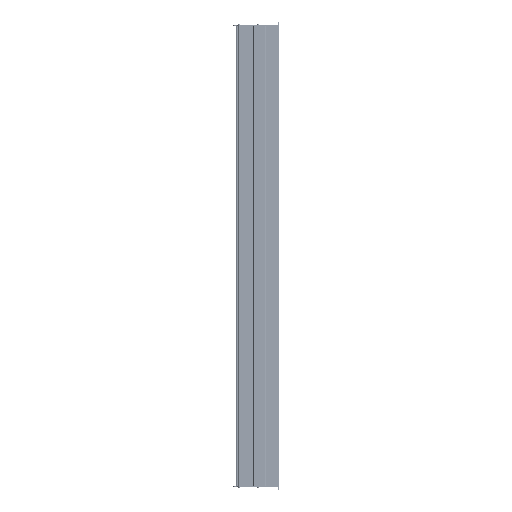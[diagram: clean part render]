
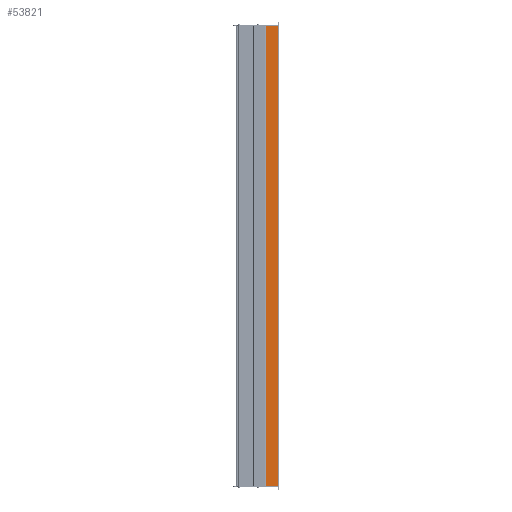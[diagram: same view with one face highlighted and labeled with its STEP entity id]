
A CAD part, left-side view. The second image highlights one B-rep face of the part: STEP entity #53821.
In plain terms, the highlighted planar face has unit normal (-1, 0, 0).
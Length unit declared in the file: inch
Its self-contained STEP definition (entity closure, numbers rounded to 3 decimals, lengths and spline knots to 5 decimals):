
#7675 = CARTESIAN_POINT ( 'NONE',  ( -1.25984, -3.67323, -48.0625 ) ) ;
#12325 = ORIENTED_EDGE ( 'NONE', *, *, #13777, .F. ) ;
#12987 = DIRECTION ( 'NONE',  ( 0., 0., 1. ) ) ;
#13777 = EDGE_CURVE ( 'NONE', #64214, #82940, #86807, .T. ) ;
#16647 = LINE ( 'NONE', #51649, #53755 ) ;
#25427 = VECTOR ( 'NONE', #95994, 39.37008 ) ;
#27815 = VECTOR ( 'NONE', #90838, 39.37008 ) ;
#29529 = ORIENTED_EDGE ( 'NONE', *, *, #70579, .F. ) ;
#32323 = EDGE_CURVE ( 'NONE', #49533, #82940, #16647, .T. ) ;
#32370 = FACE_OUTER_BOUND ( 'NONE', #43266, .T. ) ;
#36172 = VECTOR ( 'NONE', #12987, 39.37008 ) ;
#36627 = AXIS2_PLACEMENT_3D ( 'NONE', #7675, #102349, #58755 ) ;
#37662 = CARTESIAN_POINT ( 'NONE',  ( -1.25984, -2.38583, -48.0625 ) ) ;
#38282 = VERTEX_POINT ( 'NONE', #110417 ) ;
#39081 = CARTESIAN_POINT ( 'NONE',  ( -1.25984, -2.38583, 0. ) ) ;
#43266 = EDGE_LOOP ( 'NONE', ( #12325, #29529, #84809, #100952 ) ) ;
#47265 = CARTESIAN_POINT ( 'NONE',  ( -1.25984, -3.67323, -48.0625 ) ) ;
#49533 = VERTEX_POINT ( 'NONE', #47265 ) ;
#51649 = CARTESIAN_POINT ( 'NONE',  ( -1.25984, -3.67323, -48.0625 ) ) ;
#53755 = VECTOR ( 'NONE', #86589, 39.37008 ) ;
#53821 = ADVANCED_FACE ( 'NONE', ( #32370 ), #67335, .T. ) ;
#55873 = CARTESIAN_POINT ( 'NONE',  ( -1.25984, -3.67323, -48.0625 ) ) ;
#55894 = CARTESIAN_POINT ( 'NONE',  ( -1.25984, -3.67323, 0. ) ) ;
#58755 = DIRECTION ( 'NONE',  ( 0., 0., 1. ) ) ;
#64214 = VERTEX_POINT ( 'NONE', #39081 ) ;
#67335 = PLANE ( 'NONE',  #36627 ) ;
#70579 = EDGE_CURVE ( 'NONE', #38282, #64214, #73205, .T. ) ;
#73205 = LINE ( 'NONE', #37662, #36172 ) ;
#81960 = EDGE_CURVE ( 'NONE', #38282, #49533, #101135, .T. ) ;
#82940 = VERTEX_POINT ( 'NONE', #55894 ) ;
#84809 = ORIENTED_EDGE ( 'NONE', *, *, #81960, .T. ) ;
#86589 = DIRECTION ( 'NONE',  ( 0., 0., 1. ) ) ;
#86807 = LINE ( 'NONE', #104074, #25427 ) ;
#90838 = DIRECTION ( 'NONE',  ( 0., -1., 0. ) ) ;
#95994 = DIRECTION ( 'NONE',  ( 0., -1., 0. ) ) ;
#100952 = ORIENTED_EDGE ( 'NONE', *, *, #32323, .T. ) ;
#101135 = LINE ( 'NONE', #55873, #27815 ) ;
#102349 = DIRECTION ( 'NONE',  ( -1., 0., 0. ) ) ;
#104074 = CARTESIAN_POINT ( 'NONE',  ( -1.25984, -3.67323, 0. ) ) ;
#110417 = CARTESIAN_POINT ( 'NONE',  ( -1.25984, -2.38583, -48.0625 ) ) ;
